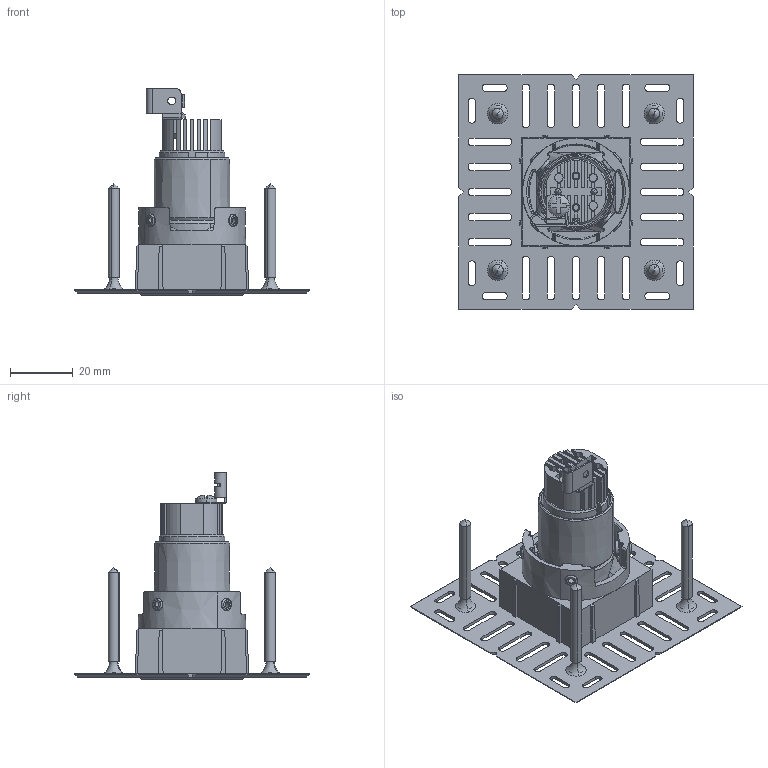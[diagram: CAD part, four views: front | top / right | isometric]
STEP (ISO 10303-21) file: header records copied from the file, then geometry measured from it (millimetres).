
FILE_DESCRIPTION((''),'2;1');
FILE_NAME('MOOD_PRO_XS_SQUARE-TRIMLESS_ASM','2020-09-09T',('Administrator'),(''),'PRO/ENGINEER BY PARAMETRIC TECHNOLOGY CORPORATION, 2001280','PRO/ENGINEER BY PARAMETRIC TECHNOLOGY CORPORATION, 2001280','');
FILE_SCHEMA(('CONFIG_CONTROL_DESIGN'));
Length unit declared in the file: millimetre
Products named in the file (22): 3_42252_01_0; 1_42249_00_0; 1_41223_02_0; 3_42258_00_0; _1; _2; 1_35498_00_0_ASM; 1_38486_00_0; 1_42324_00_0; PARTBODY_1; PARTBODY_2; PARTBODY_3; 1_42808_00_0_ASM; X_FG10B_00_0_ASM; _X-FP10B; X-FP10B_ASM; 3_52961-RI01; 1_52340-PCB; 1_34839_00_0; 52961-52340_ASM; 1_00243; MOOD_PRO_XS_SQUARE-TRIMLESS_ASM
Assembly tree (28 placements, depth 5):
  MOOD_PRO_XS_SQUARE-TRIMLESS_ASM
    X-FP10B_ASM
      X_FG10B_00_0_ASM
        3_42252_01_0
        1_42249_00_0
        1_41223_02_0
        3_42258_00_0
        1_35498_00_0_ASM  x4
          _1
          _2
        1_38486_00_0  x4
        1_42324_00_0
        1_42808_00_0_ASM
          PARTBODY_1
          PARTBODY_2
          PARTBODY_3
      _X-FP10B
    52961-52340_ASM
      3_52961-RI01
      1_52340-PCB
      1_34839_00_0  x2
    1_00243
Bounding box: 75 x 75 x 66.2 mm (x, y, z)
Volume: 24187.6 mm3; surface area: 35233.2 mm2
Topology: 24 solids, 25 shells, 1173 faces, 3052 edges, 1921 vertices
Faces by surface type: plane 596, cylinder 309, cone 101, bspline 84, torus 42, sphere 26, extrusion 10, revolution 5
Entity records: 36269 total; most frequent: CARTESIAN_POINT 11036, ORIENTED_EDGE 5296, DIRECTION 4960, EDGE_CURVE 2651, VERTEX_POINT 1685, AXIS2_PLACEMENT_3D 1683, VECTOR 1589, LINE 1579
